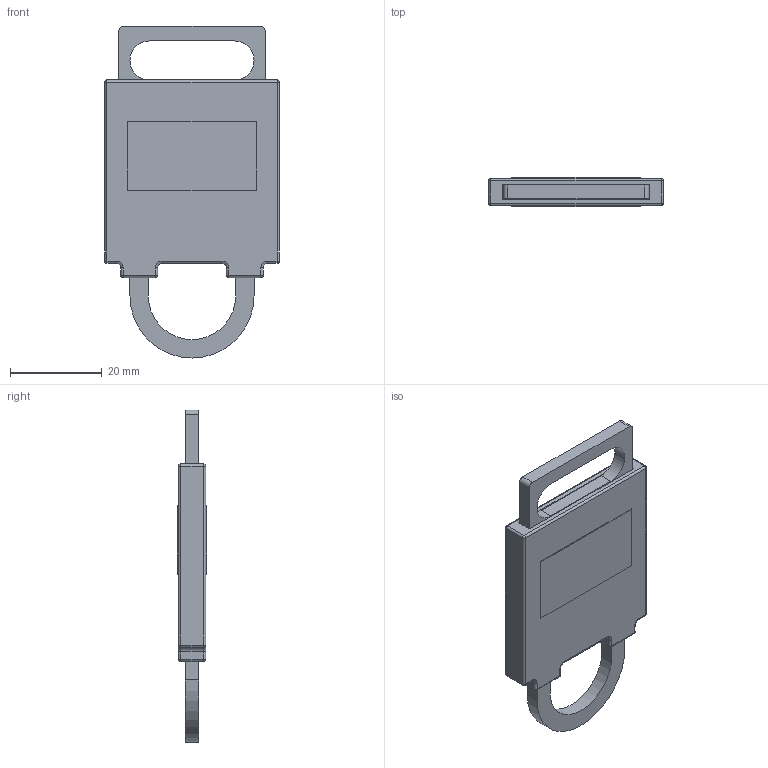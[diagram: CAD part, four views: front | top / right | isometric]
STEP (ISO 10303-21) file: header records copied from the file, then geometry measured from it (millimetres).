
FILE_DESCRIPTION((''),'2;1');
FILE_NAME('10005928462','2020-12-24T20:23:52',('RPampat'),('Rockwell Automation'),'CREO PARAMETRIC BY PTC INC, 2019444','CREO PARAMETRIC BY PTC INC, 2019444','');
FILE_SCHEMA(('CONFIG_CONTROL_DESIGN'));
Length unit declared in the file: millimetre
Products named in the file (1): 10005928462
Bounding box: 38 x 6.4 x 72.25 mm (x, y, z)
Volume: 10502.8 mm3; surface area: 5943 mm2
Topology: 1 solids, 15 shells, 187 faces, 402 edges, 235 vertices
Faces by surface type: plane 81, cylinder 50, torus 32, sphere 16, cone 8
Entity records: 5014 total; most frequent: DIRECTION 934, CARTESIAN_POINT 885, ORIENTED_EDGE 772, EDGE_CURVE 386, AXIS2_PLACEMENT_3D 368, VERTEX_POINT 235, EDGE_LOOP 201, VECTOR 198
